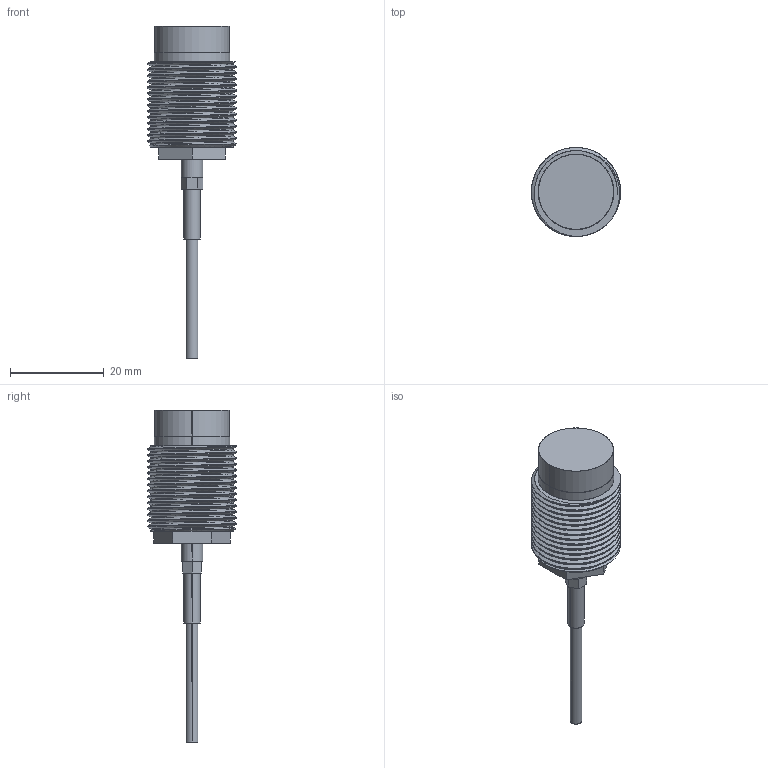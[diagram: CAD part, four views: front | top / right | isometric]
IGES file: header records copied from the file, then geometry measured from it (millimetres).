
Start section: SolidWorks IGES file using analytic representation for surfaces
Global section: file name: C:\Documents and Settings\Administrator\My Documents\EDI\3D\finished sensors\16U.IGS; native system: SolidWorks 2008; preprocessor: SolidWorks 2008; author: Administrator; date: 100305.113830; units: inch
Bounding box: 19.05 x 19.05 x 70.87 mm (x, y, z)
Surface area: 3126.5 mm2 (no closed solid volume)
Topology: 0 solids, 0 shells, 71 faces, 1197 edges, 1197 vertices
Faces by surface type: revolution 42, bspline 29
